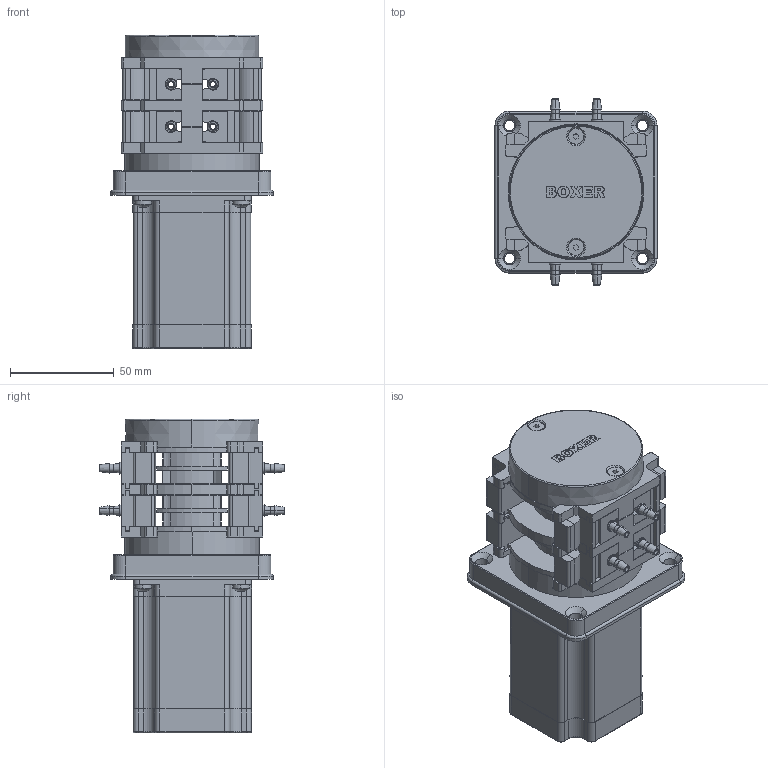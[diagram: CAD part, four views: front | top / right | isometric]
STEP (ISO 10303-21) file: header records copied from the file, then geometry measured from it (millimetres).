
FILE_DESCRIPTION (( 'STEP AP203' ), '1' );
FILE_NAME ('6342.100.STEP', '2018-11-17T18:19:32', ( '' ), ( '' ), 'SwSTEP 2.0', 'SolidWorks 2015', '' );
FILE_SCHEMA (( 'CONFIG_CONTROL_DESIGN' ));
Length unit declared in the file: millimetre
Products named in the file (1): 6342.100
Bounding box: 78 x 89.5 x 150.91 mm (x, y, z)
Surface area: 81564.8 mm2 (no closed solid volume)
Topology: 0 solids, 52 shells, 931 faces, 3344 edges, 2374 vertices
Faces by surface type: plane 526, cylinder 259, cone 64, torus 50, bspline 24, sphere 8
Entity records: 37154 total; most frequent: CARTESIAN_POINT 8270, DIRECTION 6182, ORIENTED_EDGE 5422, EDGE_CURVE 3344, VERTEX_POINT 2374, VECTOR 2126, LINE 2126, AXIS2_PLACEMENT_3D 2028
